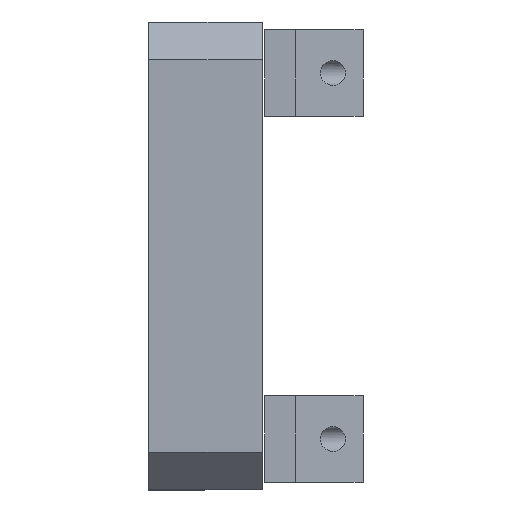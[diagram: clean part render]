
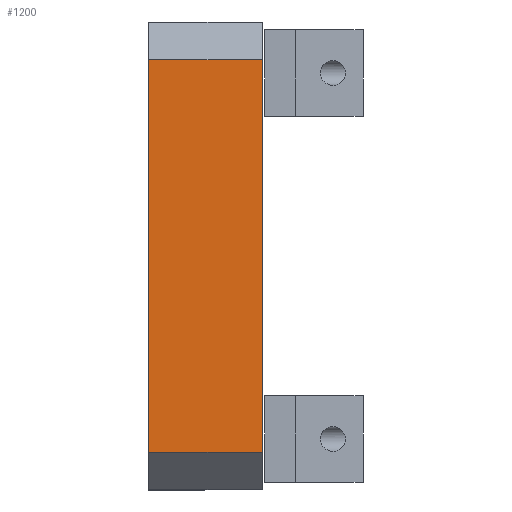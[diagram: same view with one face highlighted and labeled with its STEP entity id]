
A CAD part, left-side view. The second image highlights one B-rep face of the part: STEP entity #1200.
In plain terms, the highlighted planar face has unit normal (-1, 0, 0).
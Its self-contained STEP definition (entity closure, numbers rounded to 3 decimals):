
#214 = VERTEX_POINT ( 'NONE', #419 ) ;
#407 = CARTESIAN_POINT ( 'NONE',  ( -43.75, 0., -26. ) ) ;
#419 = CARTESIAN_POINT ( 'NONE',  ( -43.75, 15., 26. ) ) ;
#423 = CARTESIAN_POINT ( 'NONE',  ( -43.75, 0., 26. ) ) ;
#449 = CARTESIAN_POINT ( 'NONE',  ( -43.75, 15., -26. ) ) ;
#608 = DIRECTION ( 'NONE',  ( 0., 0., 1. ) ) ;
#611 = CARTESIAN_POINT ( 'NONE',  ( -43.75, 0., -31. ) ) ;
#710 = VERTEX_POINT ( 'NONE', #449 ) ;
#732 = VERTEX_POINT ( 'NONE', #423 ) ;
#745 = VERTEX_POINT ( 'NONE', #407 ) ;
#811 = VECTOR ( 'NONE', #608, 1000. ) ;
#814 = LINE ( 'NONE', #611, #811 ) ;
#915 = FACE_OUTER_BOUND ( 'NONE', #2370, .T. ) ;
#987 = ORIENTED_EDGE ( 'NONE', *, *, #2051, .T. ) ;
#991 = ORIENTED_EDGE ( 'NONE', *, *, #2039, .F. ) ;
#993 = ORIENTED_EDGE ( 'NONE', *, *, #2052, .T. ) ;
#997 = ORIENTED_EDGE ( 'NONE', *, *, #1545, .T. ) ;
#1028 = DIRECTION ( 'NONE',  ( 0., 0., -1. ) ) ;
#1032 = DIRECTION ( 'NONE',  ( 1., 0., 0. ) ) ;
#1093 = AXIS2_PLACEMENT_3D ( 'NONE', #1702, #1032, #1028 ) ;
#1200 = ADVANCED_FACE ( 'NONE', ( #915 ), #1694, .F. ) ;
#1420 = CARTESIAN_POINT ( 'NONE',  ( -43.75, 15., -31. ) ) ;
#1421 = DIRECTION ( 'NONE',  ( 0., 0., 1. ) ) ;
#1449 = CARTESIAN_POINT ( 'NONE',  ( -43.75, 15., -26. ) ) ;
#1450 = DIRECTION ( 'NONE',  ( 0., -1., 0. ) ) ;
#1451 = CARTESIAN_POINT ( 'NONE',  ( -43.75, 15., 26. ) ) ;
#1452 = DIRECTION ( 'NONE',  ( 0., 1., 0. ) ) ;
#1545 = EDGE_CURVE ( 'NONE', #745, #732, #814, .T. ) ;
#1694 = PLANE ( 'NONE',  #1093 ) ;
#1702 = CARTESIAN_POINT ( 'NONE',  ( -43.75, 15., -31. ) ) ;
#2039 = EDGE_CURVE ( 'NONE', #710, #214, #2565, .T. ) ;
#2051 = EDGE_CURVE ( 'NONE', #710, #745, #2586, .T. ) ;
#2052 = EDGE_CURVE ( 'NONE', #732, #214, #2588, .T. ) ;
#2370 = EDGE_LOOP ( 'NONE', ( #991, #987, #997, #993 ) ) ;
#2565 = LINE ( 'NONE', #1420, #2568 ) ;
#2568 = VECTOR ( 'NONE', #1421, 1000. ) ;
#2586 = LINE ( 'NONE', #1449, #2589 ) ;
#2588 = LINE ( 'NONE', #1451, #2591 ) ;
#2589 = VECTOR ( 'NONE', #1450, 1000. ) ;
#2591 = VECTOR ( 'NONE', #1452, 1000. ) ;
